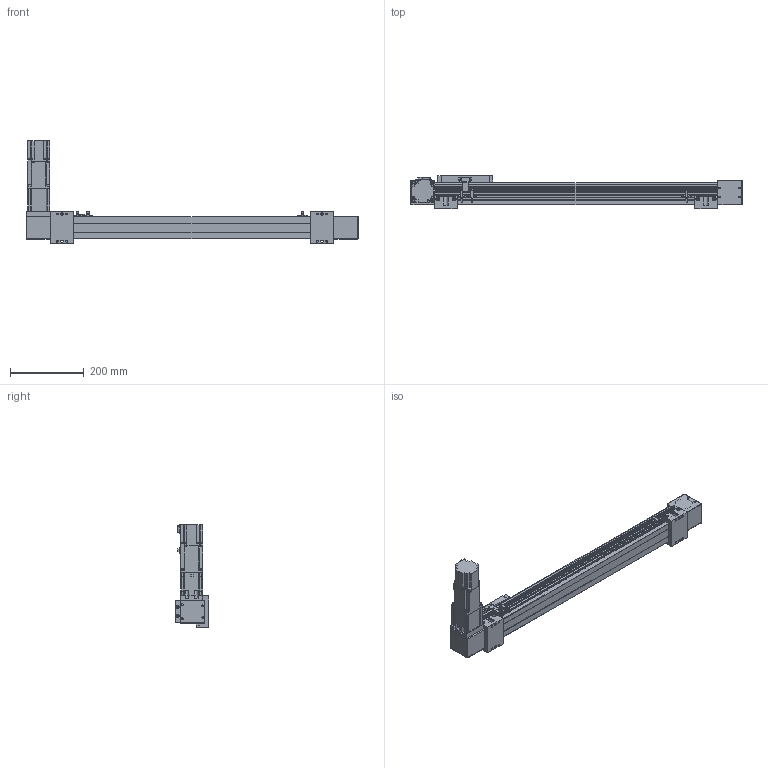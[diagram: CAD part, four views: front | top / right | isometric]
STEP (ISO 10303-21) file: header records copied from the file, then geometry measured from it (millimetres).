
FILE_DESCRIPTION(/* description */ ('STEP AP203'),/* implementation_level */ '2;1');
FILE_NAME(/* name */ 'SK60-P13-S600-BL-T40-C1-N(0)',/* time_stamp */ '2023-04-06T03:36:00+02:00',/* author */ ('License CC BY-ND 4.0'),/* organization */ ('CADENAS'),/* preprocessor_version */ 'ST-DEVELOPER v19.3',/* originating_system */ 'PARTsolutions',/* authorisation */ ' ');
FILE_SCHEMA (('CONFIG_CONTROL_DESIGN'));
Length unit declared in the file: millimetre
Products named in the file (11): SK60-P13-S600-BL-T40-C1-N(0); PSC140-sensor; SK60-S450_seat; SK60-S450-BL-C1_slider; SK60_body3; SK60_body6; SK60-BL_body2; T40-p1; SK60_body5; SK60_body4; SK60-S600-BL-C1_body
Assembly tree (17 placements, depth 2):
  SK60-P13-S600-BL-T40-C1-N(0)
    PSC140-sensor  x3
    SK60-S450_seat  x2
    SK60-S450-BL-C1_slider
    SK60_body3  x3
    SK60_body6  x2
    SK60-BL_body2  x2
    T40-p1
    SK60_body5
    SK60_body4
    SK60-S600-BL-C1_body
Bounding box: 900 x 90 x 278.2 mm (x, y, z)
Volume: 3684496.6 mm3; surface area: 534637.5 mm2
Topology: 17 solids, 21 shells, 834 faces, 2109 edges, 1394 vertices
Faces by surface type: plane 544, cylinder 266, cone 22, torus 2
Full cylindrical faces by diameter (mm): 2.8 x3, 3.3 x4, 4.2 x8, 4.5 x26, 4.6 x3, 4.917 x16, 5 x2, 5.478 x4, 5.5 x19, 6.5 x4, 8 x4, 8.5 x4, 9.988 x4, 10 x8, 13.556 x1, 14 x1, 14.586 x1, 19.692 x1, 38.432 x2, 43 x1, 44 x3, 47 x2, 50 x2
Entity records: 19371 total; most frequent: DIRECTION 3292, CARTESIAN_POINT 3289, ORIENTED_EDGE 3050, EDGE_CURVE 1525, AXIS2_PLACEMENT_3D 1100, LINE 1092, VECTOR 1092, VERTEX_POINT 1077
